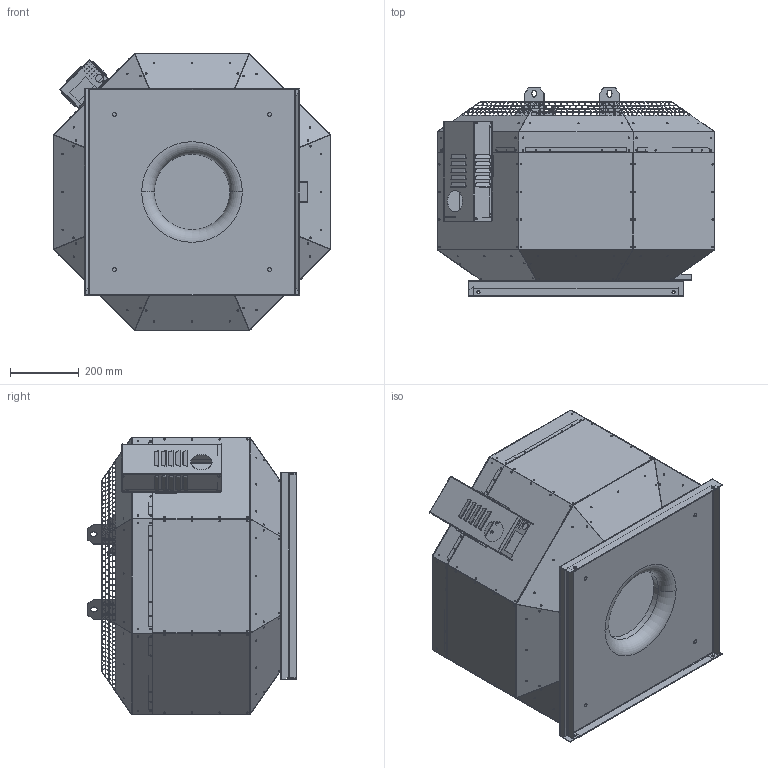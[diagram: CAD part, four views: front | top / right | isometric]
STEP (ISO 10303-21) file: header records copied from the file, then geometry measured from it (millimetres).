
FILE_DESCRIPTION (( 'STEP AP203' ), '1' );
FILE_NAME ('145177-01_DVNI355EC30_step.step', '2018-08-08T07:40:43', ( '' ), ( '' ), 'SwSTEP 2.0', 'SolidWorks 2017', '' );
FILE_SCHEMA (( 'CONFIG_CONTROL_DESIGN' ));
Products named in the file (1): 145177-01_DVNI355EC30_step
Bounding box: 804 x 604.01 x 804 mm (x, y, z)
Surface area: 4454424.6 mm2 (no closed solid volume)
Topology: 0 solids, 45 shells, 2769 faces, 13237 edges, 9978 vertices
Faces by surface type: plane 2318, cylinder 387, bspline 58, torus 6
Entity records: 149620 total; most frequent: CARTESIAN_POINT 43678, DIRECTION 19790, ORIENTED_EDGE 18689, EDGE_CURVE 13237, VECTOR 11362, LINE 11362, VERTEX_POINT 9978, EDGE_LOOP 4893
